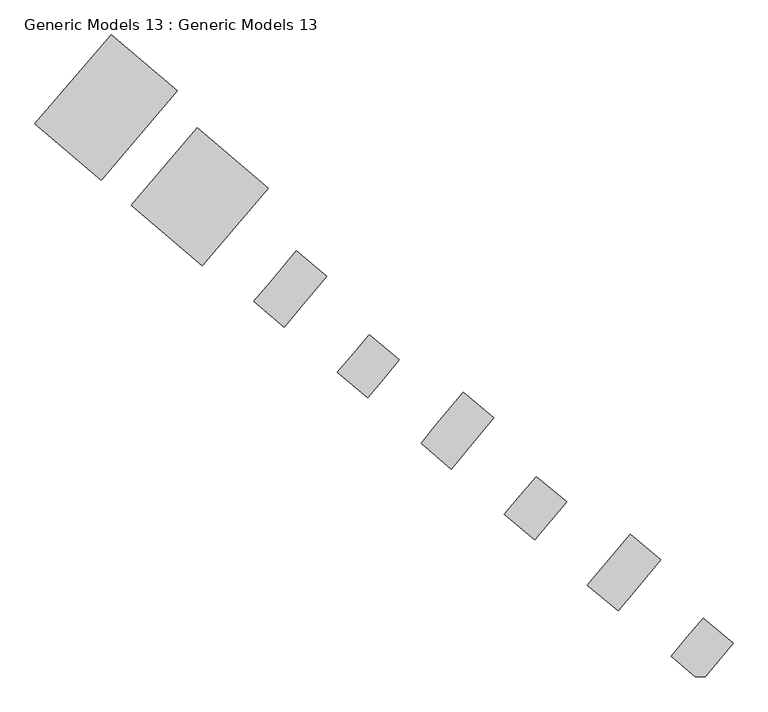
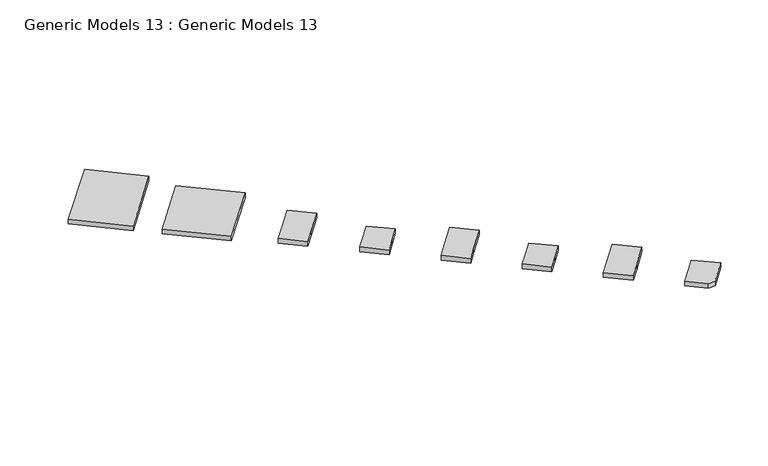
"""IFC4 building model written with IfcOpenShell, lengths in millimetres: proxy geometry, Generic Models 13 : Generic Models 13."""

from ifc_helpers import new_model, si_unit, frame, origin, place, context, project, spatial, polyline, outline, extrude, source, transform, mapped, element, save


def generic_models_13_generic_models_13_95c075da(model_context):
    return source(origin(), model_context, "Body", "SweptSolid", [
        extrude(outline(polyline([(863034.3860422, 12995.8619123), (869676.4406891, 7354.5037223), (862018.8802741, -1661.3986589), (855315.4262739, 4032.1084162), (863034.3860422, 12995.8619123)])), frame((0.0, 0.0, 12087.3611648), z_axis=(0.0, 0.0, 1.0), x_axis=(1.0, 0.0, 0.0)), (0.0, 0.0, 1.0), 752.969256),
        extrude(outline(polyline([(871685.4948651, 3632.7221731), (878885.7139118, -2482.7069897), (872222.5719721, -10327.7952468), (865022.3529249, -4212.3660835), (871685.4948651, 3632.7221731)])), frame((0.0, 0.0, 12087.3611648), z_axis=(0.0, 0.0, 1.0), x_axis=(1.0, 0.0, 0.0)), (0.0, 0.0, 1.0), 752.969256),
        extrude(outline(polyline([(882114.3332795, -14568.8356344), (880473.3944794, -16500.5013642), (877419.8575154, -13906.5394772), (879048.0501161, -11963.6949538), (881708.1730183, -8789.4972517), (884791.2689818, -11352.1542346), (882114.3332795, -14568.8356344)])), frame((0.0, 0.0, 12087.3611648), z_axis=(0.0, 0.0, 1.0), x_axis=(1.0, 0.0, 0.0)), (0.0, 0.0, 1.0), 752.969256),
        extrude(outline(polyline([(888893.1071513, -23652.9982973), (885847.7030746, -21065.9452508), (887488.7333637, -19134.005047), (889064.4984411, -17278.8997967), (892099.5754516, -19794.7589026), (890509.8985231, -21710.2162094), (888893.1071513, -23652.9982973)])), frame((0.0, 0.0, 12087.3611648), z_axis=(0.0, 0.0, 1.0), x_axis=(1.0, 0.0, 0.0)), (0.0, 0.0, 1.0), 752.969256),
        extrude(outline(polyline([(898962.9836938, -28880.4305809), (897341.3311576, -30829.0539809), (894295.927081, -28242.0009344), (895896.7005304, -26275.2899003), (898556.8234326, -23101.0921982), (901639.9193961, -25663.7491811), (898962.9836938, -28880.4305809)])), frame((0.0, 0.0, 12087.3611648), z_axis=(0.0, 0.0, 1.0), x_axis=(1.0, 0.0, 0.0)), (0.0, 0.0, 1.0), 752.969256),
        extrude(outline(polyline([(905913.1488554, -31590.4947432), (908997.4316785, -34137.2126697), (907407.7547495, -36052.6699771), (905765.7281391, -37985.6162459), (902695.9167056, -35378.0544105), (904337.6885894, -33445.2411473), (905913.1488554, -31590.4947432)])), frame((0.0, 0.0, 12087.3611648), z_axis=(0.0, 0.0, 1.0), x_axis=(1.0, 0.0, 0.0)), (0.0, 0.0, 1.0), 752.969256),
        extrude(outline(polyline([(918519.636332, -39991.1876598), (915837.8400986, -43213.7096107), (914192.4313883, -45150.6371898), (911096.0683949, -42555.7433347), (912745.7456526, -40587.2621955), (915405.8963159, -37413.0459984), (918519.636332, -39991.1876598)])), frame((0.0, 0.0, 12087.3611648), z_axis=(0.0, 0.0, 1.0), x_axis=(1.0, 0.0, 0.0)), (0.0, 0.0, 1.0), 752.969256),
        extrude(outline(polyline([(921981.0431044, -51774.4397457), (919536.7793943, -49726.0349253), (921186.4566521, -47757.5537861), (922762.2217295, -45902.4485358), (925797.29874, -48418.3076417), (923002.9938128, -51785.2633385), (921981.0431044, -51774.4397457)])), frame((0.0, 0.0, 12087.3611648), z_axis=(0.0, 0.0, 1.0), x_axis=(1.0, 0.0, 0.0)), (0.0, 0.0, 1.0), 752.969256),
    ])


if __name__ == "__main__":
    model = new_model("IFC4")
    model_context = context("Model", 3, world=origin())
    ifc_project = project(units=[si_unit("LENGTHUNIT", "METRE", prefix="MILLI")], contexts=[model_context])
    site = spatial("IfcSite", under=ifc_project)
    building = spatial("IfcBuilding", under=site)
    placement = place(None, origin())
    generic_models_13_generic_models_13_shape = generic_models_13_generic_models_13_95c075da(model_context)
    element("IfcBuildingElementProxy", 1, Name="Generic Models 13 : Generic Models 13", ObjectType="Generic Models 13 : Generic Models 13", at=placement, inside=building, context=model_context, shape_type="MappedRepresentation", body=[
        mapped(generic_models_13_generic_models_13_shape, transform((0.0, 0.0, 0.0), x_axis=(1.0, 0.0, 0.0), y_axis=(0.0, 1.0, 0.0), z_axis=(0.0, 0.0, 1.0))),
    ])
    save(model, "model.ifc")
